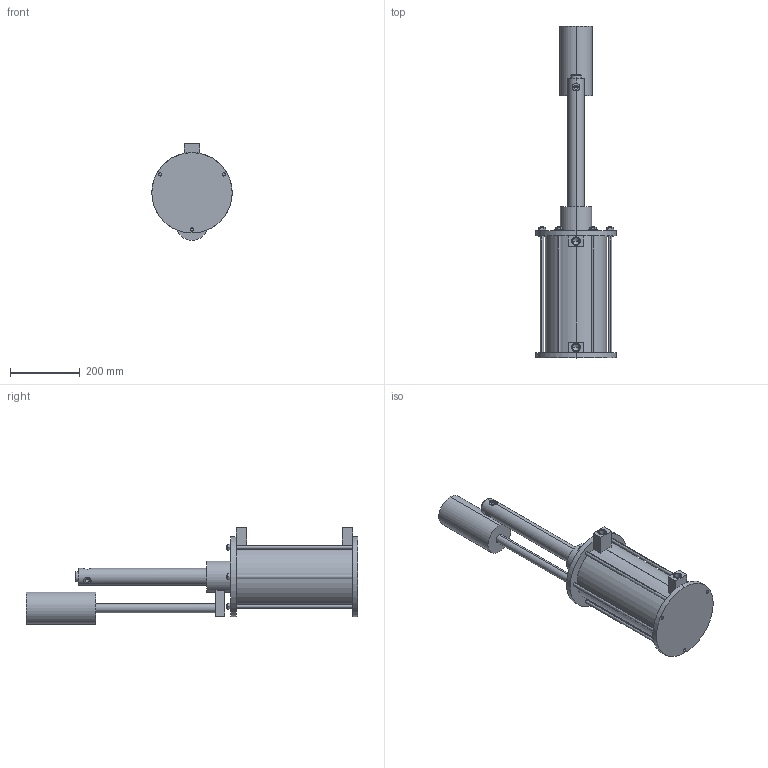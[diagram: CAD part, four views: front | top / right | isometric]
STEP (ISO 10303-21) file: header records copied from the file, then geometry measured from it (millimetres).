
FILE_DESCRIPTION (( 'STEP AP203' ), '1' );
FILE_NAME ('6110-240.STEP', '2016-01-29T10:36:53', ( '' ), ( '' ), 'SwSTEP 2.0', 'SolidWorks 2015', '' );
FILE_SCHEMA (( 'CONFIG_CONTROL_DESIGN' ));
Length unit declared in the file: millimetre
Products named in the file (1): 6110-240
Bounding box: 230 x 950 x 276.5 mm (x, y, z)
Volume: 3901511.7 mm3; surface area: 863049.5 mm2
Topology: 1 solids, 3 shells, 218 faces, 512 edges, 326 vertices
Faces by surface type: plane 108, cylinder 90, cone 18, torus 2
Entity records: 6755 total; most frequent: CARTESIAN_POINT 1553, DIRECTION 1110, ORIENTED_EDGE 1000, EDGE_CURVE 500, AXIS2_PLACEMENT_3D 413, VERTEX_POINT 326, LINE 284, VECTOR 284
